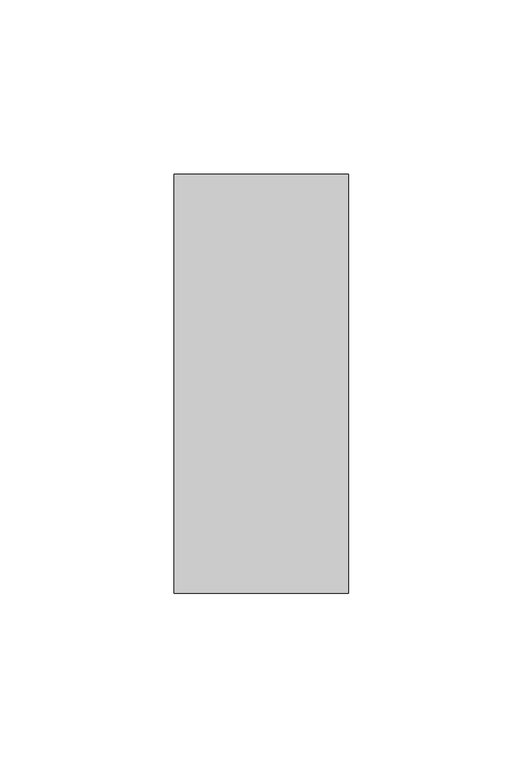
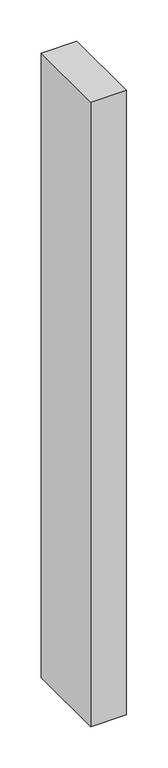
"""IFC4 building model written with IfcOpenShell, lengths in millimetres: member geometry, Прямоугольный импост : 50х120 мм."""

import ifcopenshell
import ifcopenshell.guid

model = None  # the IFC model being written
_history = None  # IfcOwnerHistory: only IFC2X3 demands one
_inside = {}  # id of a spatial element -> (the spatial element, [elements in it])
_under = {}  # id of a project, library or spatial element -> (it, [spatial elements below it])
_declared = {}  # id of a project -> (the project, [libraries it declares])
_typed = {}  # id of a type object -> (the type object, [elements of that type])
_made_of = {}  # id of a material, layer set ... -> (it, [elements and type objects made of it])


def new_model(schema):
    """Start an empty IFC model of exactly this schema.

    Asked for "IFC4X3", IfcOpenShell would pick the latest addendum, in which some entities
    have other attributes; the version numbers below select the first issue.
    IFC2X3 requires an IfcOwnerHistory on every rooted entity: one is made here for all.
    """
    global model, _history
    if schema == "IFC4X3":
        model = ifcopenshell.file(schema_version=(4, 3, 0, 0))
    else:
        model = ifcopenshell.file(schema=schema)
    _inside.clear()
    _under.clear()
    _declared.clear()
    _typed.clear()
    _made_of.clear()
    _history = None
    if model.schema == "IFC2X3":
        org = make("IfcOrganization", Name="unknown")
        user = make(
            "IfcPersonAndOrganization",
            ThePerson=make("IfcPerson", FamilyName="unknown"),
            TheOrganization=org,
        )
        app = make(
            "IfcApplication",
            ApplicationDeveloper=org,
            Version="unknown",
            ApplicationFullName="unknown",
            ApplicationIdentifier="unknown",
        )
        _history = make(
            "IfcOwnerHistory",
            OwningUser=user,
            OwningApplication=app,
            ChangeAction="ADDED",
            CreationDate=0,
        )
    return model


def make(cls, **values):
    """One entity of the class cls with the attributes given. An attribute that is None is left unset."""
    return model.create_entity(
        cls, **{name: value for name, value in values.items() if value is not None}
    )


def rooted(cls, **values):
    """An entity with a GlobalId (a new one), such as an element, a storey or a relation."""
    return make(cls, GlobalId=ifcopenshell.guid.new(), OwnerHistory=_history, **values)


def si_unit(unit_type, name, prefix=None):
    """IfcSIUnit, for example si_unit("LENGTHUNIT", "METRE", prefix="MILLI")."""
    return make("IfcSIUnit", UnitType=unit_type, Prefix=prefix, Name=name)


def assignment(units):
    """IfcUnitAssignment: the units of a project."""
    return None if units is None else make("IfcUnitAssignment", Units=units)


def point(xyz):
    """IfcCartesianPoint."""
    return None if xyz is None else make("IfcCartesianPoint", Coordinates=xyz)


def direction(xyz):
    """IfcDirection."""
    return None if xyz is None else make("IfcDirection", DirectionRatios=xyz)


def frame(location, z_axis=None, x_axis=None):
    """IfcAxis2Placement3D, a coordinate frame: its origin and axes. An axis left out is left unset."""
    return make(
        "IfcAxis2Placement3D",
        Location=point(location),
        Axis=direction(z_axis),
        RefDirection=direction(x_axis),
    )


def origin():
    """The frame at (0, 0, 0) with its axes left unset."""
    return frame((0.0, 0.0, 0.0))


def place(relative_to, where):
    """IfcLocalPlacement: puts the frame where relative to a parent placement (None: the world)."""
    return make(
        "IfcLocalPlacement", PlacementRelTo=relative_to, RelativePlacement=where
    )


def context(
    kind, dimensions, precision=None, world=None, true_north=None, identifier=None
):
    """IfcGeometricRepresentationContext, for example the 3D "Model" context."""
    return make(
        "IfcGeometricRepresentationContext",
        ContextIdentifier=identifier,
        ContextType=kind,
        CoordinateSpaceDimension=dimensions,
        Precision=precision,
        WorldCoordinateSystem=world,
        TrueNorth=true_north,
    )


def project(units=None, contexts=None):
    """IfcProject with its units and contexts."""
    return rooted(
        "IfcProject",
        Name="project",
        RepresentationContexts=contexts,
        UnitsInContext=assignment(units),
    )


def spatial(cls, under=None, at=None, **own):
    """A site, building, storey or space (cls), placed at a placement, below another one or the project."""
    s = rooted(cls, ObjectPlacement=at, **own)
    if under is not None:
        _under.setdefault(under.id(), (under, []))[1].append(s)
    return s


def polyline(points):
    """IfcPolyline through the points."""
    return make("IfcPolyline", Points=[point(p) for p in points])


def outline(outer, holes=None, kind="AREA"):
    """IfcArbitraryClosedProfileDef: a profile drawn as a closed curve; with holes, ...WithVoids."""
    if holes is None:
        return make("IfcArbitraryClosedProfileDef", ProfileType=kind, OuterCurve=outer)
    return make(
        "IfcArbitraryProfileDefWithVoids",
        ProfileType=kind,
        OuterCurve=outer,
        InnerCurves=holes,
    )


def extrude(swept, where, along, depth):
    """IfcExtrudedAreaSolid: the profile swept, set in the frame where, extruded along a direction by depth."""
    return make(
        "IfcExtrudedAreaSolid",
        SweptArea=swept,
        Position=where,
        ExtrudedDirection=direction(along),
        Depth=depth,
    )


def shape(context_of_items, identifier, shape_type, items):
    """IfcShapeRepresentation: the items that make up one representation, for example the "Body"."""
    return make(
        "IfcShapeRepresentation",
        ContextOfItems=context_of_items,
        RepresentationIdentifier=identifier,
        RepresentationType=shape_type,
        Items=items,
    )


def source(mapping_origin, context_of_items, identifier, shape_type, items):
    """IfcRepresentationMap: a shape defined once, which mapped items show again and again."""
    return make(
        "IfcRepresentationMap",
        MappingOrigin=mapping_origin,
        MappedRepresentation=shape(context_of_items, identifier, shape_type, items),
    )


def transform(
    local_origin,
    x_axis=None,
    y_axis=None,
    z_axis=None,
    scale=None,
    scale2=None,
    scale3=None,
    uniform=True,
):
    """IfcCartesianTransformationOperator3D, or its non-uniform kind. x_axis, y_axis, z_axis: its Axis1, 2, 3."""
    if uniform:
        return make(
            "IfcCartesianTransformationOperator3D",
            Axis1=direction(x_axis),
            Axis2=direction(y_axis),
            LocalOrigin=point(local_origin),
            Scale=scale,
            Axis3=direction(z_axis),
        )
    return make(
        "IfcCartesianTransformationOperator3DnonUniform",
        Axis1=direction(x_axis),
        Axis2=direction(y_axis),
        LocalOrigin=point(local_origin),
        Scale=scale,
        Axis3=direction(z_axis),
        Scale2=scale2,
        Scale3=scale3,
    )


def mapped(mapping_source, mapping_target):
    """IfcMappedItem: shows the shape of a source again, moved by a transform."""
    return make(
        "IfcMappedItem", MappingSource=mapping_source, MappingTarget=mapping_target
    )


def made_of(thing, what):
    """Note that an element or type object is made of a material, layer set ...; save() writes the relation."""
    if what is not None:
        _made_of.setdefault(what.id(), (what, []))[1].append(thing)
    return thing


def element(
    cls,
    number,
    at=None,
    inside=None,
    cuts=None,
    type_object=None,
    material=None,
    context=None,
    identifier="Body",
    shape_type=None,
    held_by="IfcProductDefinitionShape",
    body=None,
    shapes=None,
    **own,
):
    """One element of the class cls, such as IfcWall. Its Tag is "e" and its number.

    at: its placement. inside: the storey or other place that contains it. cuts: it is an
    opening in that element (IfcRelVoidsElement). A single representation is given by context,
    identifier, shape_type and body (its items); several are given by shapes. held_by: the class
    of the entity that holds the representations. save() writes the other relations.
    """
    e = rooted(cls, Tag="e%d" % number, ObjectPlacement=at, **own)
    if body is not None:
        shapes = [shape(context, identifier, shape_type, body)]
    if shapes is not None:
        e.Representation = make(held_by, Representations=shapes)
    if inside is not None:
        _inside.setdefault(inside.id(), (inside, []))[1].append(e)
    if cuts is not None:
        rooted(
            "IfcRelVoidsElement", RelatingBuildingElement=cuts, RelatedOpeningElement=e
        )
    if type_object is not None:
        _typed.setdefault(type_object.id(), (type_object, []))[1].append(e)
    return made_of(e, material)


def aggregate(whole, parts):
    """IfcRelAggregates: a whole, such as a stair, and the parts it consists of."""
    return rooted("IfcRelAggregates", RelatingObject=whole, RelatedObjects=parts)


def save(model, path):
    """Write the relations noted so far, then the file.

    IfcRelAggregates (storeys below a building ...), IfcRelContainedInSpatialStructure (elements
    in a storey), IfcRelDefinesByType, IfcRelAssociatesMaterial and IfcRelDeclares: one each for
    every whole, place, type object, material and project.
    """
    for whole, parts in _under.values():
        aggregate(whole, parts)
    for where, things in _inside.values():
        rooted(
            "IfcRelContainedInSpatialStructure",
            RelatedElements=things,
            RelatingStructure=where,
        )
    for kind, things in _typed.values():
        rooted("IfcRelDefinesByType", RelatedObjects=things, RelatingType=kind)
    for what, things in _made_of.values():
        rooted("IfcRelAssociatesMaterial", RelatedObjects=things, RelatingMaterial=what)
    for by, libraries in _declared.values():
        rooted("IfcRelDeclares", RelatingContext=by, RelatedDefinitions=libraries)
    model.write(path)


def member_ada26568(model_context):
    return source(origin(), model_context, "Body", "SweptSolid", [
        extrude(outline(polyline([(0.0, 60.0), (0.0, -60.0), (-50.0, -60.0), (-50.0, 60.0), (0.0, 60.0)])), frame((0.0, 0.0, -925.0), z_axis=(0.0, 0.0, 1.0), x_axis=(1.0, 0.0, 0.0)), (0.0, 0.0, 1.0), 925.0),
    ])


if __name__ == "__main__":
    model = new_model("IFC4")
    model_context = context("Model", 3, world=origin())
    ifc_project = project(units=[si_unit("LENGTHUNIT", "METRE", prefix="MILLI")], contexts=[model_context])
    site = spatial("IfcSite", under=ifc_project)
    building = spatial("IfcBuilding", under=site)
    placement = place(None, origin())
    member_shape = member_ada26568(model_context)
    element("IfcMember", 1, ObjectType="Прямоугольный импост : 50х120 мм", at=placement, inside=building, context=model_context, shape_type="MappedRepresentation", body=[
        mapped(member_shape, transform((0.0, 0.0, 0.0), x_axis=(1.0, 0.0, 0.0), y_axis=(0.0, 1.0, 0.0), z_axis=(0.0, 0.0, 1.0))),
    ])
    save(model, "model.ifc")
